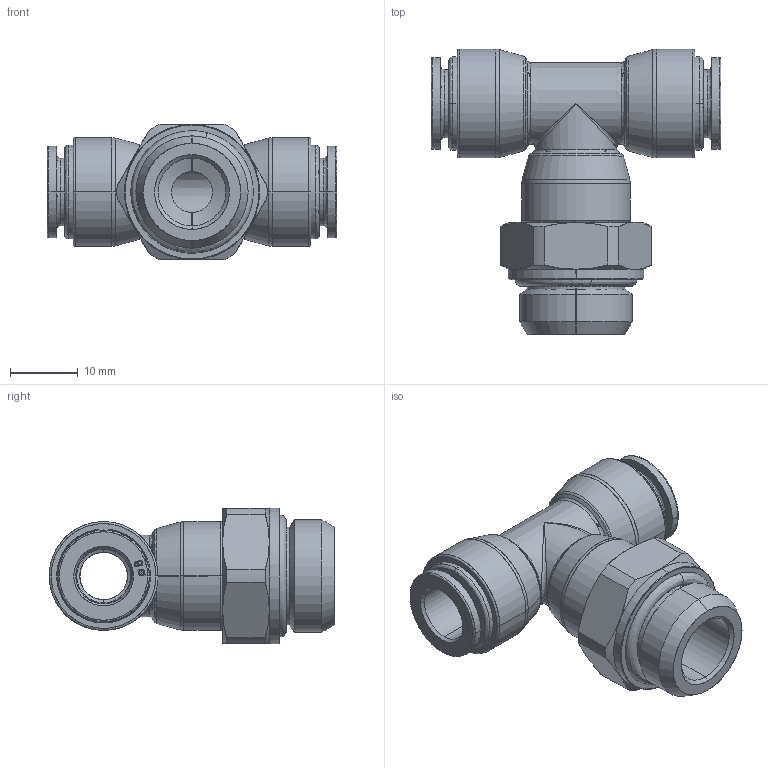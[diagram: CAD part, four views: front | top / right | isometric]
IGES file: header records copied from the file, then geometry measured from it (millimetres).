
Start section: SolidWorks IGES file using analytic representation for surfaces
Global section: file name: K:\Disegni Esecutivi\SERIE 53000\53000 Assiemi\53217\Iges\5321700019A.IGS; native system: SolidWorks 2020; preprocessor: SolidWorks 2020; author: cad06; date: 240510.104516; units: millimetre
Bounding box: 42.6 x 42 x 20 mm (x, y, z)
Surface area: 6156.7 mm2 (no closed solid volume)
Topology: 0 solids, 0 shells, 241 faces, 2782 edges, 2778 vertices
Faces by surface type: bspline 154, revolution 87
